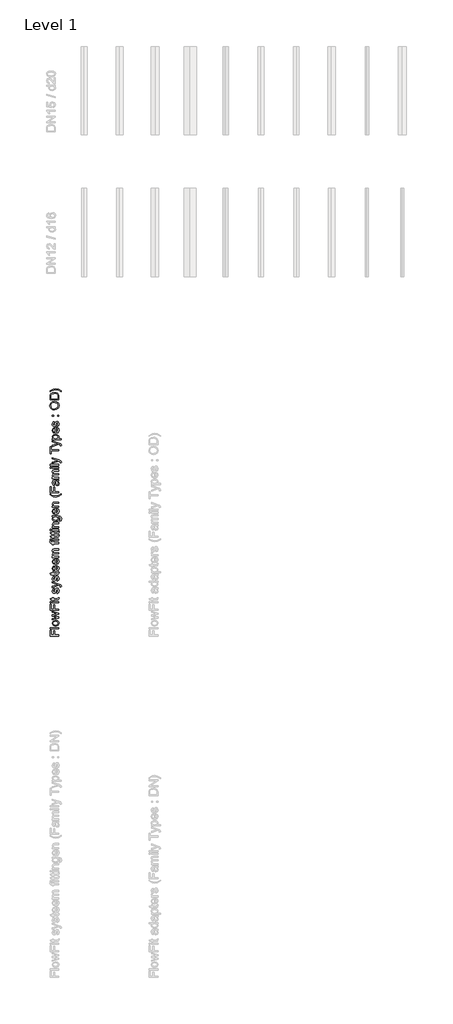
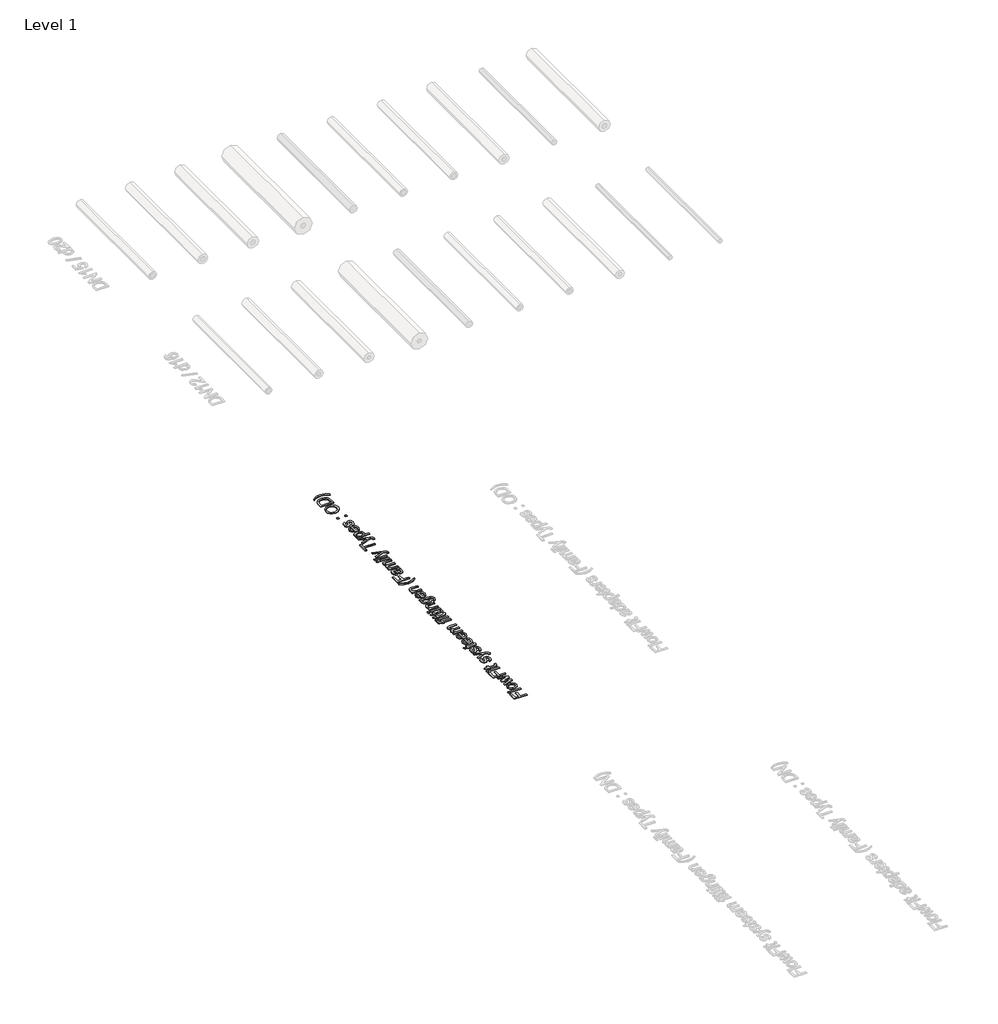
# One storey, part 6 of 11: 1 proxy.
"""IFC4 building model written with IfcOpenShell, lengths in millimetres."""

import ifcopenshell
import ifcopenshell.guid

model = None  # the IFC model being written
_history = None  # IfcOwnerHistory: only IFC2X3 demands one
_inside = {}  # id of a spatial element -> (the spatial element, [elements in it])
_under = {}  # id of a project, library or spatial element -> (it, [spatial elements below it])
_declared = {}  # id of a project -> (the project, [libraries it declares])
_typed = {}  # id of a type object -> (the type object, [elements of that type])
_made_of = {}  # id of a material, layer set ... -> (it, [elements and type objects made of it])


def new_model(schema):
    """Start an empty IFC model of exactly this schema.

    Asked for "IFC4X3", IfcOpenShell would pick the latest addendum, in which some entities
    have other attributes; the version numbers below select the first issue.
    IFC2X3 requires an IfcOwnerHistory on every rooted entity: one is made here for all.
    """
    global model, _history
    if schema == "IFC4X3":
        model = ifcopenshell.file(schema_version=(4, 3, 0, 0))
    else:
        model = ifcopenshell.file(schema=schema)
    _inside.clear()
    _under.clear()
    _declared.clear()
    _typed.clear()
    _made_of.clear()
    _history = None
    if model.schema == "IFC2X3":
        org = make("IfcOrganization", Name="unknown")
        user = make(
            "IfcPersonAndOrganization",
            ThePerson=make("IfcPerson", FamilyName="unknown"),
            TheOrganization=org,
        )
        app = make(
            "IfcApplication",
            ApplicationDeveloper=org,
            Version="unknown",
            ApplicationFullName="unknown",
            ApplicationIdentifier="unknown",
        )
        _history = make(
            "IfcOwnerHistory",
            OwningUser=user,
            OwningApplication=app,
            ChangeAction="ADDED",
            CreationDate=0,
        )
    return model


def make(cls, **values):
    """One entity of the class cls with the attributes given. An attribute that is None is left unset."""
    return model.create_entity(
        cls, **{name: value for name, value in values.items() if value is not None}
    )


def rooted(cls, **values):
    """An entity with a GlobalId (a new one), such as an element, a storey or a relation."""
    return make(cls, GlobalId=ifcopenshell.guid.new(), OwnerHistory=_history, **values)


def si_unit(unit_type, name, prefix=None):
    """IfcSIUnit, for example si_unit("LENGTHUNIT", "METRE", prefix="MILLI")."""
    return make("IfcSIUnit", UnitType=unit_type, Prefix=prefix, Name=name)


def assignment(units):
    """IfcUnitAssignment: the units of a project."""
    return None if units is None else make("IfcUnitAssignment", Units=units)


def point(xyz):
    """IfcCartesianPoint."""
    return None if xyz is None else make("IfcCartesianPoint", Coordinates=xyz)


def direction(xyz):
    """IfcDirection."""
    return None if xyz is None else make("IfcDirection", DirectionRatios=xyz)


def frame(location, z_axis=None, x_axis=None):
    """IfcAxis2Placement3D, a coordinate frame: its origin and axes. An axis left out is left unset."""
    return make(
        "IfcAxis2Placement3D",
        Location=point(location),
        Axis=direction(z_axis),
        RefDirection=direction(x_axis),
    )


def origin():
    """The frame at (0, 0, 0) with its axes left unset."""
    return frame((0.0, 0.0, 0.0))


def origin_with_axes():
    """The frame at (0, 0, 0) with the z axis (0, 0, 1) and the x axis (1, 0, 0) written out."""
    return frame((0.0, 0.0, 0.0), z_axis=(0.0, 0.0, 1.0), x_axis=(1.0, 0.0, 0.0))


def place(relative_to, where):
    """IfcLocalPlacement: puts the frame where relative to a parent placement (None: the world)."""
    return make(
        "IfcLocalPlacement", PlacementRelTo=relative_to, RelativePlacement=where
    )


def context(
    kind, dimensions, precision=None, world=None, true_north=None, identifier=None
):
    """IfcGeometricRepresentationContext, for example the 3D "Model" context."""
    return make(
        "IfcGeometricRepresentationContext",
        ContextIdentifier=identifier,
        ContextType=kind,
        CoordinateSpaceDimension=dimensions,
        Precision=precision,
        WorldCoordinateSystem=world,
        TrueNorth=true_north,
    )


def project(units=None, contexts=None):
    """IfcProject with its units and contexts."""
    return rooted(
        "IfcProject",
        Name="project",
        RepresentationContexts=contexts,
        UnitsInContext=assignment(units),
    )


def spatial(cls, under=None, at=None, **own):
    """A site, building, storey or space (cls), placed at a placement, below another one or the project."""
    s = rooted(cls, ObjectPlacement=at, **own)
    if under is not None:
        _under.setdefault(under.id(), (under, []))[1].append(s)
    return s


def polyline(points):
    """IfcPolyline through the points."""
    return make("IfcPolyline", Points=[point(p) for p in points])


def outline(outer, holes=None, kind="AREA"):
    """IfcArbitraryClosedProfileDef: a profile drawn as a closed curve; with holes, ...WithVoids."""
    if holes is None:
        return make("IfcArbitraryClosedProfileDef", ProfileType=kind, OuterCurve=outer)
    return make(
        "IfcArbitraryProfileDefWithVoids",
        ProfileType=kind,
        OuterCurve=outer,
        InnerCurves=holes,
    )


def extrude(swept, where, along, depth):
    """IfcExtrudedAreaSolid: the profile swept, set in the frame where, extruded along a direction by depth."""
    return make(
        "IfcExtrudedAreaSolid",
        SweptArea=swept,
        Position=where,
        ExtrudedDirection=direction(along),
        Depth=depth,
    )


def shape(context_of_items, identifier, shape_type, items):
    """IfcShapeRepresentation: the items that make up one representation, for example the "Body"."""
    return make(
        "IfcShapeRepresentation",
        ContextOfItems=context_of_items,
        RepresentationIdentifier=identifier,
        RepresentationType=shape_type,
        Items=items,
    )


def made_of(thing, what):
    """Note that an element or type object is made of a material, layer set ...; save() writes the relation."""
    if what is not None:
        _made_of.setdefault(what.id(), (what, []))[1].append(thing)
    return thing


def element(
    cls,
    number,
    at=None,
    inside=None,
    cuts=None,
    type_object=None,
    material=None,
    context=None,
    identifier="Body",
    shape_type=None,
    held_by="IfcProductDefinitionShape",
    body=None,
    shapes=None,
    **own,
):
    """One element of the class cls, such as IfcWall. Its Tag is "e" and its number.

    at: its placement. inside: the storey or other place that contains it. cuts: it is an
    opening in that element (IfcRelVoidsElement). A single representation is given by context,
    identifier, shape_type and body (its items); several are given by shapes. held_by: the class
    of the entity that holds the representations. save() writes the other relations.
    """
    e = rooted(cls, Tag="e%d" % number, ObjectPlacement=at, **own)
    if body is not None:
        shapes = [shape(context, identifier, shape_type, body)]
    if shapes is not None:
        e.Representation = make(held_by, Representations=shapes)
    if inside is not None:
        _inside.setdefault(inside.id(), (inside, []))[1].append(e)
    if cuts is not None:
        rooted(
            "IfcRelVoidsElement", RelatingBuildingElement=cuts, RelatedOpeningElement=e
        )
    if type_object is not None:
        _typed.setdefault(type_object.id(), (type_object, []))[1].append(e)
    return made_of(e, material)


def aggregate(whole, parts):
    """IfcRelAggregates: a whole, such as a stair, and the parts it consists of."""
    return rooted("IfcRelAggregates", RelatingObject=whole, RelatedObjects=parts)


def save(model, path):
    """Write the relations noted so far, then the file.

    IfcRelAggregates (storeys below a building ...), IfcRelContainedInSpatialStructure (elements
    in a storey), IfcRelDefinesByType, IfcRelAssociatesMaterial and IfcRelDeclares: one each for
    every whole, place, type object, material and project.
    """
    for whole, parts in _under.values():
        aggregate(whole, parts)
    for where, things in _inside.values():
        rooted(
            "IfcRelContainedInSpatialStructure",
            RelatedElements=things,
            RelatingStructure=where,
        )
    for kind, things in _typed.values():
        rooted("IfcRelDefinesByType", RelatedObjects=things, RelatingType=kind)
    for what, things in _made_of.values():
        rooted("IfcRelAssociatesMaterial", RelatedObjects=things, RelatingMaterial=what)
    for by, libraries in _declared.values():
        rooted("IfcRelDeclares", RelatingContext=by, RelatedDefinitions=libraries)
    model.write(path)


model = new_model("IFC4")

# Units and contexts
model_context = context("Model", 3, world=origin())
ifc_project = project(units=[si_unit("LENGTHUNIT", "METRE", prefix="MILLI")], contexts=[model_context])

# Site, building, storey
site = spatial("IfcSite", under=ifc_project)
building = spatial("IfcBuilding", under=site)
storey = spatial("IfcBuildingStorey", under=building, Name="Level 1", Elevation=0.0)

# Proxy
placement = place(None, origin())
element("IfcBuildingElementProxy", 1, Name="S", ObjectType="S", at=placement, inside=storey, context=model_context, shape_type="SweptSolid", body=[
    extrude(outline(polyline([(191.7931305, 2058.4123634), (141.5649754, 2058.4123634), (141.5649754, 2092.1594051), (147.8434948, 2092.1594051), (147.8434948, 2064.6908828), (162.7549783, 2064.6908828), (162.7549783, 2088.2353305), (169.0334977, 2088.2353305), (169.0334977, 2064.6908828), (191.7931305, 2064.6908828), (191.7931305, 2058.4123634)])), origin_with_axes(), (0.0, 0.0, 1.0), 3.0),
    extrude(outline(polyline([(191.7931305, 2100.0075544), (141.5649754, 2100.0075544), (141.5649754, 2106.2860737), (191.7931305, 2106.2860737), (191.7931305, 2100.0075544)])), origin_with_axes(), (0.0, 0.0, 1.0), 3.0),
    extrude(outline(polyline([(173.3499798, 2114.134223), (164.4564326, 2115.4923207), (158.2055043, 2119.5666138), (154.1220142, 2130.6275991), (159.0945525, 2142.4917934), (172.834945, 2147.0964497), (184.0062949, 2145.060836), (190.3277339, 2139.1318045), (192.5779454, 2130.6275991), (187.6238012, 2118.6898283), (173.3499798, 2114.134223)]), holes=[polyline([(173.3377171, 2120.4127424), (183.0681958, 2123.3190101), (186.299426, 2130.6275991), (183.0498017, 2137.9116626), (173.1415133, 2140.8179304), (163.6317638, 2137.8932685), (160.4005336, 2130.6275991), (163.619501, 2123.3190101), (173.3377171, 2120.4127424)])]), origin_with_axes(), (0.0, 0.0, 1.0), 3.0),
    extrude(outline(polyline([(191.7931305, 2160.2788879), (154.9068291, 2149.058487), (154.9068291, 2155.5822611), (176.4279258, 2161.9466196), (184.1166595, 2163.8473433), (176.7099687, 2165.4047104), (154.9068291, 2170.4692192), (154.9068291, 2177.9494864), (176.648655, 2182.9894697), (183.3563701, 2184.3751586), (176.280773, 2186.3617214), (154.9068291, 2192.7383426), (154.9068291, 2199.2866421), (191.7931305, 2187.9804021), (191.7931305, 2180.3897703), (170.1616692, 2175.5705162), (163.4171659, 2174.1725646), (191.7931305, 2167.9553589), (191.7931305, 2160.2788879)])), origin_with_axes(), (0.0, 0.0, 1.0), 3.0),
    extrude(outline(polyline([(191.7931305, 2204.3879391), (141.5649754, 2204.3879391), (141.5649754, 2238.1349808), (147.8434948, 2238.1349808), (147.8434948, 2210.6664585), (162.7549783, 2210.6664585), (162.7549783, 2234.2109062), (169.0334977, 2234.2109062), (169.0334977, 2210.6664585), (191.7931305, 2210.6664585), (191.7931305, 2204.3879391)])), origin_with_axes(), (0.0, 0.0, 1.0), 3.0),
    extrude(outline(polyline([(191.7931305, 2245.98313), (154.9068291, 2245.98313), (154.9068291, 2252.2616494), (191.7931305, 2252.2616494), (191.7931305, 2245.98313)])), origin_with_axes(), (0.0, 0.0, 1.0), 3.0),
    extrude(outline(polyline([(147.8434948, 2245.98313), (141.5649754, 2245.98313), (141.5649754, 2252.2616494), (147.8434948, 2252.2616494), (147.8434948, 2245.98313)])), origin_with_axes(), (0.0, 0.0, 1.0), 3.0),
    extrude(outline(polyline([(186.5569434, 2275.0212822), (191.9770715, 2275.8060971), (192.5779454, 2271.1094703), (191.5356131, 2265.8487578), (188.8010236, 2263.2245329), (181.6763756, 2262.4642434), (161.1853485, 2262.4642434), (161.1853485, 2257.7553539), (154.9068291, 2257.7553539), (154.9068291, 2262.4642434), (145.9427712, 2262.4642434), (142.2516885, 2268.7427628), (154.9068291, 2268.7427628), (154.9068291, 2275.0212822), (161.1853485, 2275.0212822), (161.1853485, 2268.7427628), (181.4924346, 2268.7427628), (184.7297962, 2269.0738566), (186.299426, 2272.2866927), (186.5569434, 2275.0212822)])), origin_with_axes(), (0.0, 0.0, 1.0), 3.0),
    extrude(outline(polyline([(180.8057216, 2298.5657299), (180.0209066, 2304.8442493), (184.6807453, 2307.750517), (186.299426, 2314.4091811), (184.8156353, 2320.8103279), (181.3330191, 2322.8949925), (178.5125905, 2320.7980651), (176.7222314, 2314.3356047), (173.6504168, 2304.8810375), (170.0635673, 2300.7546278), (164.9990585, 2299.3505448), (160.3208258, 2300.4787163), (156.7462391, 2303.5566623), (154.888435, 2307.5481819), (154.1220142, 2312.9499159), (155.3544189, 2320.5895987), (158.6898823, 2325.445641), (164.3246082, 2327.603882), (165.1094231, 2321.3253627), (161.645201, 2318.9647865), (160.4005336, 2313.4404252), (161.5900187, 2307.431686), (164.3613964, 2305.6290642), (166.1885436, 2306.3770909), (167.5742325, 2308.719273), (168.9108704, 2314.1271383), (171.8661891, 2323.3425823), (175.2139152, 2327.6222761), (180.6708315, 2329.1735119), (186.6795708, 2327.352496), (191.0389724, 2322.0979148), (192.5779454, 2314.323342), (189.610364, 2303.3727213), (180.8057216, 2298.5657299)])), origin_with_axes(), (0.0, 0.0, 1.0), 3.0),
    extrude(outline(polyline([(205.9197991, 2336.2368462), (199.8742717, 2335.4520313), (200.4260946, 2338.6403419), (199.7332502, 2341.6201861), (197.8018697, 2343.4473333), (193.1788193, 2345.1641159), (191.6582404, 2345.6546253), (154.9068291, 2332.3127716), (154.9068291, 2338.9346475), (175.3855935, 2346.0102445), (183.5770993, 2348.4750539), (176.3420867, 2350.9398633), (154.9068291, 2358.211664), (154.9068291, 2364.784489), (192.6760473, 2351.9454074), (200.867553, 2348.609944), (205.2943997, 2344.9679122), (206.704614, 2340.0750817), (205.9197991, 2336.2368462)])), origin_with_axes(), (0.0, 0.0, 1.0), 3.0),
    extrude(outline(polyline([(180.8057216, 2367.6294431), (180.0209066, 2373.9079625), (184.6807453, 2376.8142303), (186.299426, 2383.4728944), (184.8156353, 2389.8740411), (181.3330191, 2391.9587057), (178.5125905, 2389.8617784), (176.7222314, 2383.399318), (173.6504168, 2373.9447507), (170.0635673, 2369.818341), (164.9990585, 2368.414258), (160.3208258, 2369.5424295), (156.7462391, 2372.6203755), (154.888435, 2376.6118952), (154.1220142, 2382.0136291), (155.3544189, 2389.6533119), (158.6898823, 2394.5093542), (164.3246082, 2396.6675953), (165.1094231, 2390.3890759), (161.645201, 2388.0284997), (160.4005336, 2382.5041385), (161.5900187, 2376.4953992), (164.3613964, 2374.6927774), (166.1885436, 2375.4408041), (167.5742325, 2377.7829862), (168.9108704, 2383.1908515), (171.8661891, 2392.4062955), (175.2139152, 2396.6859894), (180.6708315, 2398.2372251), (186.6795708, 2396.4162092), (191.0389724, 2391.1616281), (192.5779454, 2383.3870552), (189.610364, 2372.4364345), (180.8057216, 2367.6294431)])), origin_with_axes(), (0.0, 0.0, 1.0), 3.0),
    extrude(outline(polyline([(186.5569434, 2418.6424131), (191.9770715, 2419.427228), (192.5779454, 2414.7306012), (191.5356131, 2409.4698887), (188.8010236, 2406.8456638), (181.6763756, 2406.0853743), (161.1853485, 2406.0853743), (161.1853485, 2401.3764848), (154.9068291, 2401.3764848), (154.9068291, 2406.0853743), (145.9427712, 2406.0853743), (142.2516885, 2412.3638937), (154.9068291, 2412.3638937), (154.9068291, 2418.6424131), (161.1853485, 2418.6424131), (161.1853485, 2412.3638937), (181.4924346, 2412.3638937), (184.7297962, 2412.6949875), (186.299426, 2415.9078236), (186.5569434, 2418.6424131)])), origin_with_axes(), (0.0, 0.0, 1.0), 3.0),
    extrude(outline(polyline([(180.8057216, 2450.7462486), (181.5905365, 2456.9021406), (189.6962031, 2451.1447874), (192.5779454, 2440.4210272), (187.6054071, 2427.3857419), (173.6565481, 2422.5664877), (159.2478367, 2427.4347928), (154.1220142, 2440.065408), (159.2355739, 2452.3342725), (173.6197599, 2457.0983443), (175.3120171, 2457.0615561), (175.3120171, 2428.8450071), (183.4667347, 2432.456382), (186.299426, 2440.5436546), (184.9873136, 2446.6995466), (180.8057216, 2450.7462486)]), holes=[polyline([(169.0334977, 2428.8450071), (169.0334977, 2450.819825), (163.3435895, 2448.3059647), (160.4005336, 2440.0408825), (162.748847, 2432.3092292), (169.0334977, 2428.8450071)])]), origin_with_axes(), (0.0, 0.0, 1.0), 3.0),
    extrude(outline(polyline([(180.8057216, 2489.2021798), (181.5905365, 2495.3580718), (189.6962031, 2489.6007186), (192.5779454, 2478.8769585), (187.6054071, 2465.8416731), (173.6565481, 2461.022419), (159.2478367, 2465.890724), (154.1220142, 2478.5213392), (159.2355739, 2490.7902037), (173.6197599, 2495.5542756), (175.3120171, 2495.5174874), (175.3120171, 2467.3009383), (183.4667347, 2470.9123133), (186.299426, 2478.9995858), (184.9873136, 2485.1554778), (180.8057216, 2489.2021798)]), holes=[polyline([(169.0334977, 2467.3009383), (169.0334977, 2489.2757562), (163.3435895, 2486.7618959), (160.4005336, 2478.4968137), (162.748847, 2470.7651605), (169.0334977, 2467.3009383)])]), origin_with_axes(), (0.0, 0.0, 1.0), 3.0),
    extrude(outline(polyline([(191.7931305, 2501.832795), (154.9068291, 2501.832795), (154.9068291, 2508.1113143), (160.976882, 2508.1113143), (156.0043437, 2512.4277964), (154.1220142, 2518.5714257), (156.0411319, 2524.8622079), (161.4183404, 2528.3202986), (155.9460957, 2533.2192605), (154.1220142, 2539.4058094), (157.1570406, 2547.6157093), (166.5073747, 2550.4913202), (191.7931305, 2550.4913202), (191.7931305, 2544.2128008), (169.205176, 2544.2128008), (163.9628576, 2543.630321), (161.3815522, 2541.5211309), (160.4005336, 2537.9342814), (162.9143939, 2531.7599953), (170.9710096, 2529.3013173), (191.7931305, 2529.3013173), (191.7931305, 2523.0227979), (168.5062002, 2523.0227979), (162.4238845, 2521.569664), (160.4005336, 2516.8055922), (161.7494342, 2512.1580163), (165.6980343, 2509.0678075), (173.1905643, 2508.1113143), (191.7931305, 2508.1113143), (191.7931305, 2501.832795)])), origin_with_axes(), (0.0, 0.0, 1.0), 3.0),
    extrude(outline(polyline([(191.7931305, 2581.0991022), (161.1853485, 2581.0991022), (161.1853485, 2575.6053977), (154.9068291, 2575.6053977), (154.9068291, 2581.0991022), (151.191221, 2581.0991022), (145.9550339, 2581.7612898), (142.2149003, 2584.9741259), (140.7801605, 2591.3016962), (141.4668736, 2597.0283926), (147.3529855, 2596.1086876), (147.0586799, 2592.4911813), (148.1010122, 2588.5364499), (151.9882986, 2587.3776216), (154.9068291, 2587.3776216), (154.9068291, 2594.4409559), (161.1853485, 2594.4409559), (161.1853485, 2587.3776216), (191.7931305, 2587.3776216), (191.7931305, 2581.0991022)])), origin_with_axes(), (0.0, 0.0, 1.0), 3.0),
    extrude(outline(polyline([(147.8434948, 2599.9346603), (141.5649754, 2599.9346603), (141.5649754, 2606.2131797), (147.8434948, 2606.2131797), (147.8434948, 2599.9346603)])), origin_with_axes(), (0.0, 0.0, 1.0), 3.0),
    extrude(outline(polyline([(191.7931305, 2599.9346603), (154.9068291, 2599.9346603), (154.9068291, 2606.2131797), (191.7931305, 2606.2131797), (191.7931305, 2599.9346603)])), origin_with_axes(), (0.0, 0.0, 1.0), 3.0),
    extrude(outline(polyline([(186.5569434, 2628.9728125), (191.9770715, 2629.7576274), (192.5779454, 2625.0610006), (191.5356131, 2619.8002881), (188.8010236, 2617.1760632), (181.6763756, 2616.4157737), (161.1853485, 2616.4157737), (161.1853485, 2611.7068842), (154.9068291, 2611.7068842), (154.9068291, 2616.4157737), (145.9427712, 2616.4157737), (142.2516885, 2622.6942931), (154.9068291, 2622.6942931), (154.9068291, 2628.9728125), (161.1853485, 2628.9728125), (161.1853485, 2622.6942931), (181.4924346, 2622.6942931), (184.7297962, 2623.0253869), (186.299426, 2626.238223), (186.5569434, 2628.9728125)])), origin_with_axes(), (0.0, 0.0, 1.0), 3.0),
    extrude(outline(polyline([(186.5569434, 2648.5931856), (191.9770715, 2649.3780005), (192.5779454, 2644.6813737), (191.5356131, 2639.4206612), (188.8010236, 2636.7964363), (181.6763756, 2636.0361468), (161.1853485, 2636.0361468), (161.1853485, 2631.3272573), (154.9068291, 2631.3272573), (154.9068291, 2636.0361468), (145.9427712, 2636.0361468), (142.2516885, 2642.3146662), (154.9068291, 2642.3146662), (154.9068291, 2648.5931856), (161.1853485, 2648.5931856), (161.1853485, 2642.3146662), (181.4924346, 2642.3146662), (184.7297962, 2642.64576), (186.299426, 2645.8585961), (186.5569434, 2648.5931856)])), origin_with_axes(), (0.0, 0.0, 1.0), 3.0),
    extrude(outline(polyline([(147.8434948, 2654.8717049), (141.5649754, 2654.8717049), (141.5649754, 2661.1502243), (147.8434948, 2661.1502243), (147.8434948, 2654.8717049)])), origin_with_axes(), (0.0, 0.0, 1.0), 3.0),
    extrude(outline(polyline([(191.7931305, 2654.8717049), (154.9068291, 2654.8717049), (154.9068291, 2661.1502243), (191.7931305, 2661.1502243), (191.7931305, 2654.8717049)])), origin_with_axes(), (0.0, 0.0, 1.0), 3.0),
    extrude(outline(polyline([(191.7931305, 2670.5680034), (154.9068291, 2670.5680034), (154.9068291, 2676.8465228), (160.057177, 2676.8465228), (155.6058049, 2681.6473828), (154.1220142, 2688.2018137), (155.3176307, 2694.1308452), (158.4568904, 2698.1775471), (163.0738094, 2700.0598767), (169.1438623, 2700.3909705), (191.7931305, 2700.3909705), (191.7931305, 2694.1124511), (169.9899909, 2694.1124511), (164.4349728, 2693.3889498), (161.4980482, 2690.83217), (160.4005336, 2686.5218193), (162.8653429, 2679.709871), (172.2218083, 2676.8465228), (191.7931305, 2676.8465228), (191.7931305, 2670.5680034)])), origin_with_axes(), (0.0, 0.0, 1.0), 3.0),
    extrude(outline(polyline([(194.9323902, 2707.4543048), (195.7172051, 2713.7328242), (199.0281431, 2715.7684379), (200.4260946, 2721.8630163), (198.8442021, 2728.2886885), (194.4050927, 2731.3543717), (187.084241, 2731.7835674), (191.7931305, 2721.9733809), (190.4227701, 2715.5001906), (186.3116888, 2710.6732723), (173.1660388, 2706.6694899), (163.43556, 2708.4659803), (156.5500354, 2713.6653791), (154.1220142, 2721.6668125), (159.6157186, 2731.7835674), (154.9068291, 2731.7835674), (154.9068291, 2738.0620868), (186.7531472, 2738.0620868), (198.9484353, 2736.3453041), (204.6199494, 2730.906782), (206.704614, 2721.7403889), (203.7676894, 2711.2986716), (194.9323902, 2707.4543048)]), holes=[polyline([(172.7368431, 2712.9480093), (182.4550592, 2715.6274165), (185.5146111, 2722.3535256), (182.4734533, 2729.067372), (172.9207841, 2731.7835674), (163.5581874, 2728.9876642), (160.4005336, 2722.2554237), (163.5091364, 2715.6642047), (172.7368431, 2712.9480093)])]), origin_with_axes(), (0.0, 0.0, 1.0), 3.0),
    extrude(outline(polyline([(180.8057216, 2773.3051819), (181.5905365, 2779.461074), (189.6962031, 2773.7037208), (192.5779454, 2762.9799606), (187.6054071, 2749.9446752), (173.6565481, 2745.1254211), (159.2478367, 2749.9937262), (154.1220142, 2762.6243413), (159.2355739, 2774.8932059), (173.6197599, 2779.6572777), (175.3120171, 2779.6204895), (175.3120171, 2751.4039405), (183.4667347, 2755.0153154), (186.299426, 2763.1025879), (184.9873136, 2769.25848), (180.8057216, 2773.3051819)]), holes=[polyline([(169.0334977, 2751.4039405), (169.0334977, 2773.3787583), (163.3435895, 2770.864898), (160.4005336, 2762.5998159), (162.748847, 2754.8681626), (169.0334977, 2751.4039405)])]), origin_with_axes(), (0.0, 0.0, 1.0), 3.0),
    extrude(outline(polyline([(191.7931305, 2785.9357971), (154.9068291, 2785.9357971), (154.9068291, 2792.2143165), (160.057177, 2792.2143165), (155.6058049, 2797.0151765), (154.1220142, 2803.5696074), (155.3176307, 2809.4986389), (158.4568904, 2813.5453408), (163.0738094, 2815.4276704), (169.1438623, 2815.7587642), (191.7931305, 2815.7587642), (191.7931305, 2809.4802448), (169.9899909, 2809.4802448), (164.4349728, 2808.7567435), (161.4980482, 2806.1999637), (160.4005336, 2801.889613), (162.8653429, 2795.0776647), (172.2218083, 2792.2143165), (191.7931305, 2792.2143165), (191.7931305, 2785.9357971)])), origin_with_axes(), (0.0, 0.0, 1.0), 3.0),
    extrude(outline(polyline([(205.9197991, 2856.5691402), (191.1922566, 2847.6541332), (173.7055991, 2844.0121014), (158.4384963, 2846.7344282), (141.5649754, 2856.5691402), (141.5649754, 2861.2780297), (151.510052, 2855.4041805), (161.1485603, 2851.8725134), (173.7423873, 2850.2906208), (189.8372246, 2853.037473), (205.9197991, 2861.2780297), (205.9197991, 2856.5691402)])), origin_with_axes(), (0.0, 0.0, 1.0), 3.0),
    extrude(outline(polyline([(191.7931305, 2868.341364), (141.5649754, 2868.341364), (141.5649754, 2902.0884057), (147.8434948, 2902.0884057), (147.8434948, 2874.6198834), (162.7549783, 2874.6198834), (162.7549783, 2898.1643311), (169.0334977, 2898.1643311), (169.0334977, 2874.6198834), (191.7931305, 2874.6198834), (191.7931305, 2868.341364)])), origin_with_axes(), (0.0, 0.0, 1.0), 3.0),
    extrude(outline(polyline([(187.084241, 2933.4810026), (191.3394094, 2927.3925556), (192.5779454, 2920.6664465), (189.5981013, 2911.5491044), (181.982944, 2908.3669251), (177.016537, 2909.5686729), (173.4112935, 2912.7263267), (171.3511543, 2917.1225166), (170.4069238, 2922.5549074), (168.2486828, 2933.4442144), (162.2154181, 2931.7519573), (160.4005336, 2924.8112503), (161.6084128, 2918.4591545), (165.894238, 2915.4302594), (165.1094231, 2909.15174), (158.9780565, 2911.8679354), (155.3850757, 2917.3371144), (154.1220142, 2925.6205907), (155.2379229, 2933.2296166), (158.0399574, 2937.5277046), (162.3012572, 2939.4529537), (167.7949617, 2939.759522), (175.6063227, 2939.759522), (186.5140239, 2940.0783531), (191.7931305, 2941.3291519), (191.7931305, 2935.0506325), (187.084241, 2933.4810026)]), holes=[polyline([(174.5272022, 2933.4810026), (176.4524513, 2923.351985), (177.4702581, 2917.9502511), (179.1257271, 2915.5038358), (181.5414856, 2914.6454445), (184.9382626, 2916.5155113), (186.299426, 2922.0030844), (184.7972412, 2928.3551802), (181.1613408, 2932.450933), (176.3052985, 2933.4442144), (174.5272022, 2933.4810026)])]), origin_with_axes(), (0.0, 0.0, 1.0), 3.0),
    extrude(outline(polyline([(191.7931305, 2948.3924862), (154.9068291, 2948.3924862), (154.9068291, 2954.6710056), (160.976882, 2954.6710056), (156.0043437, 2958.9874876), (154.1220142, 2965.1311169), (156.0411319, 2971.4218991), (161.4183404, 2974.8799898), (155.9460957, 2979.7789517), (154.1220142, 2985.9655006), (157.1570406, 2994.1754005), (166.5073747, 2997.0510114), (191.7931305, 2997.0510114), (191.7931305, 2990.772492), (169.205176, 2990.772492), (163.9628576, 2990.1900122), (161.3815522, 2988.0808221), (160.4005336, 2984.4939726), (162.9143939, 2978.3196865), (170.9710096, 2975.8610085), (191.7931305, 2975.8610085), (191.7931305, 2969.5824891), (168.5062002, 2969.5824891), (162.4238845, 2968.1293552), (160.4005336, 2963.3652834), (161.7494342, 2958.7177075), (165.6980343, 2955.6274987), (173.1905643, 2954.6710056), (191.7931305, 2954.6710056), (191.7931305, 2948.3924862)])), origin_with_axes(), (0.0, 0.0, 1.0), 3.0),
    extrude(outline(polyline([(147.8434948, 3006.4687905), (141.5649754, 3006.4687905), (141.5649754, 3012.7473099), (147.8434948, 3012.7473099), (147.8434948, 3006.4687905)])), origin_with_axes(), (0.0, 0.0, 1.0), 3.0),
    extrude(outline(polyline([(191.7931305, 3006.4687905), (154.9068291, 3006.4687905), (154.9068291, 3012.7473099), (191.7931305, 3012.7473099), (191.7931305, 3006.4687905)])), origin_with_axes(), (0.0, 0.0, 1.0), 3.0),
    extrude(outline(polyline([(191.7931305, 3022.1650889), (141.5649754, 3022.1650889), (141.5649754, 3028.4436083), (191.7931305, 3028.4436083), (191.7931305, 3022.1650889)])), origin_with_axes(), (0.0, 0.0, 1.0), 3.0),
    extrude(outline(polyline([(205.9197991, 3037.8613874), (199.8742717, 3037.0765725), (200.4260946, 3040.2648831), (199.7332502, 3043.2447273), (197.8018697, 3045.0718745), (193.1788193, 3046.7886571), (191.6582404, 3047.2791665), (154.9068291, 3033.9373128), (154.9068291, 3040.5591887), (175.3855935, 3047.6347857), (183.5770993, 3050.0995951), (176.3420867, 3052.5644045), (154.9068291, 3059.8362052), (154.9068291, 3066.4090302), (192.6760473, 3053.5699486), (200.867553, 3050.2344852), (205.2943997, 3046.5924534), (206.704614, 3041.6996229), (205.9197991, 3037.8613874)])), origin_with_axes(), (0.0, 0.0, 1.0), 3.0),
    extrude(outline(polyline([(191.7931305, 3104.5706559), (147.8434948, 3104.5706559), (147.8434948, 3088.0895425), (141.5649754, 3088.0895425), (141.5649754, 3127.3302886), (147.8434948, 3127.3302886), (147.8434948, 3110.8491752), (191.7931305, 3110.8491752), (191.7931305, 3104.5706559)])), origin_with_axes(), (0.0, 0.0, 1.0), 3.0),
    extrude(outline(polyline([(205.9197991, 3133.608808), (199.8742717, 3132.8239931), (200.4260946, 3136.0123037), (199.7332502, 3138.9921479), (197.8018697, 3140.8192951), (193.1788193, 3142.5360778), (191.6582404, 3143.0265871), (154.9068291, 3129.6847334), (154.9068291, 3136.3066093), (175.3855935, 3143.3822063), (183.5770993, 3145.8470157), (176.3420867, 3148.3118251), (154.9068291, 3155.5836259), (154.9068291, 3162.1564508), (192.6760473, 3149.3173692), (200.867553, 3145.9819058), (205.2943997, 3142.339874), (206.704614, 3137.4470435), (205.9197991, 3133.608808)])), origin_with_axes(), (0.0, 0.0, 1.0), 3.0),
    extrude(outline(polyline([(205.9197991, 3167.3558497), (154.9068291, 3167.3558497), (154.9068291, 3173.6343691), (161.0627212, 3173.6343691), (155.8571909, 3177.9753766), (154.1220142, 3183.8369631), (156.5500354, 3191.7954769), (163.3926405, 3196.9948758), (173.0679369, 3198.7484466), (183.2398741, 3196.7680152), (190.1683183, 3191.0167934), (192.5779454, 3183.0766736), (190.965396, 3177.613626), (186.8880372, 3173.6343691), (205.9197991, 3173.6343691), (205.9197991, 3167.3558497)]), holes=[polyline([(173.6442854, 3173.6343691), (183.2092173, 3176.3505645), (186.299426, 3182.9417836), (183.0988527, 3189.6678927), (173.1783015, 3192.4699272), (163.5888442, 3189.7353377), (160.4005336, 3183.199301), (163.7911793, 3176.5345055), (173.6442854, 3173.6343691)])]), origin_with_axes(), (0.0, 0.0, 1.0), 3.0),
    extrude(outline(polyline([(180.8057216, 3231.637097), (181.5905365, 3237.792989), (189.6962031, 3232.0356358), (192.5779454, 3221.3118757), (187.6054071, 3208.2765903), (173.6565481, 3203.4573362), (159.2478367, 3208.3256412), (154.1220142, 3220.9562564), (159.2355739, 3233.2251209), (173.6197599, 3237.9891928), (175.3120171, 3237.9524046), (175.3120171, 3209.7358555), (183.4667347, 3213.3472305), (186.299426, 3221.434503), (184.9873136, 3227.590395), (180.8057216, 3231.637097)]), holes=[polyline([(169.0334977, 3209.7358555), (169.0334977, 3231.7106734), (163.3435895, 3229.1968131), (160.4005336, 3220.9317309), (162.748847, 3213.2000777), (169.0334977, 3209.7358555)])]), origin_with_axes(), (0.0, 0.0, 1.0), 3.0),
    extrude(outline(polyline([(180.8057216, 3241.9132674), (180.0209066, 3248.1917868), (184.6807453, 3251.0980545), (186.299426, 3257.7567186), (184.8156353, 3264.1578654), (181.3330191, 3266.24253), (178.5125905, 3264.1456026), (176.7222314, 3257.6831422), (173.6504168, 3248.228575), (170.0635673, 3244.1021653), (164.9990585, 3242.6980823), (160.3208258, 3243.8262538), (156.7462391, 3246.9041998), (154.888435, 3250.8957194), (154.1220142, 3256.2974534), (155.3544189, 3263.9371362), (158.6898823, 3268.7931785), (164.3246082, 3270.9514195), (165.1094231, 3264.6729002), (161.645201, 3262.312324), (160.4005336, 3256.7879627), (161.5900187, 3250.7792235), (164.3613964, 3248.9766017), (166.1885436, 3249.7246284), (167.5742325, 3252.0668105), (168.9108704, 3257.4746758), (171.8661891, 3266.6901198), (175.2139152, 3270.9698136), (180.6708315, 3272.5210494), (186.6795708, 3270.7000335), (191.0389724, 3265.4454523), (192.5779454, 3257.6708795), (189.610364, 3246.7202588), (180.8057216, 3241.9132674)])), origin_with_axes(), (0.0, 0.0, 1.0), 3.0),
    extrude(outline(polyline([(161.1853485, 3300.7743866), (154.9068291, 3300.7743866), (154.9068291, 3307.052906), (161.1853485, 3307.052906), (161.1853485, 3300.7743866)])), origin_with_axes(), (0.0, 0.0, 1.0), 3.0),
    extrude(outline(polyline([(191.7931305, 3300.7743866), (185.5146111, 3300.7743866), (185.5146111, 3307.052906), (191.7931305, 3307.052906), (191.7931305, 3300.7743866)])), origin_with_axes(), (0.0, 0.0, 1.0), 3.0),
    extrude(outline(polyline([(167.3412405, 3336.8758731), (156.23427, 3338.5497362), (147.8312321, 3343.5713254), (142.5429284, 3351.2385993), (140.7801605, 3360.8495164), (144.0910985, 3373.3452415), (153.3249365, 3381.8310529), (166.7648921, 3384.7495834), (180.3887886, 3381.6777687), (189.4877367, 3372.9712282), (192.5779454, 3360.8127282), (189.1627742, 3348.1821131), (179.843097, 3339.7453526), (167.3412405, 3336.8758731)]), holes=[polyline([(167.4025542, 3343.1543925), (181.24718, 3348.1759817), (186.299426, 3360.77594), (181.198129, 3373.486263), (166.7158412, 3378.471064), (156.3538316, 3376.3373484), (149.4928324, 3370.1017486), (147.0586799, 3360.8863046), (151.7491753, 3348.3905795), (158.0077678, 3344.4634392), (167.4025542, 3343.1543925)])]), origin_with_axes(), (0.0, 0.0, 1.0), 3.0),
    extrude(outline(polyline([(191.7931305, 3393.3825475), (141.5649754, 3393.3825475), (141.5649754, 3410.7097895), (142.2884767, 3419.6738475), (145.8814575, 3427.0560128), (154.4653707, 3433.0034384), (166.4092728, 3434.9777385), (176.5444218, 3433.6411005), (183.8591421, 3430.2075353), (188.4147475, 3425.621273), (190.9347392, 3419.6186652), (191.7931305, 3411.5436554), (191.7931305, 3393.3825475)]), holes=[polyline([(185.5146111, 3399.6610669), (185.5146111, 3410.7711032), (184.6071689, 3418.8522443), (182.0442576, 3423.5120829), (175.8086578, 3427.3319243), (166.311171, 3428.6992191), (154.4163198, 3426.0198119), (148.8490389, 3419.5021692), (147.8434948, 3410.5994249), (147.8434948, 3399.6610669), (185.5146111, 3399.6610669)])]), origin_with_axes(), (0.0, 0.0, 1.0), 3.0),
    extrude(outline(polyline([(205.9197991, 3444.3955175), (205.9197991, 3439.686628), (189.8372246, 3447.9271847), (173.7423873, 3450.6740369), (161.2589249, 3449.0921443), (151.6081539, 3445.5972654), (141.5649754, 3439.686628), (141.5649754, 3444.3955175), (158.4384963, 3454.2302295), (173.7055991, 3456.9525563), (191.1922566, 3453.2921304), (205.9197991, 3444.3955175)])), origin_with_axes(), (0.0, 0.0, 1.0), 3.0),
])

save(model, "model.ifc")
